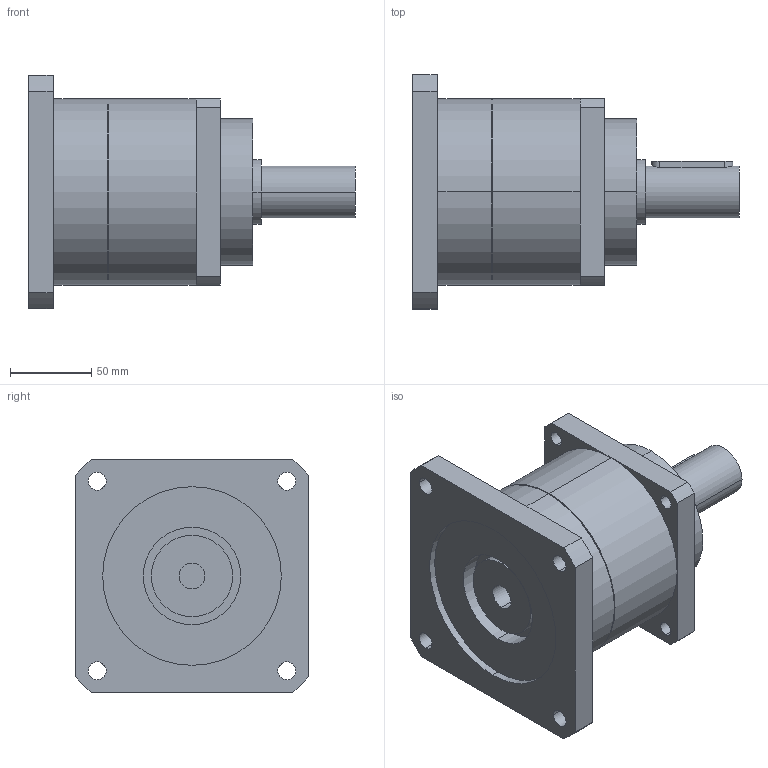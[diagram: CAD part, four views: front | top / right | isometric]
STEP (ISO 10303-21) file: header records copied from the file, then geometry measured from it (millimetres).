
FILE_DESCRIPTION(('CoCreate Modeling STEP Export'),'2;1');
FILE_NAME('GPT120_ig-3-4-5-7-10_32_B5A_15.87_P22.stp','2015-02-04T16:08:00',(''),(''),'CoCreate Modeling STEP processor for AP214 (Solid Model)','CoCreate Modeling 16.00C 25-Feb-2009 (C) Parametric Technology GmbH','');
FILE_SCHEMA(('AUTOMOTIVE_DESIGN { 1 0 10303 214 1 1 1 1 }'));
Length unit declared in the file: millimetre
Products named in the file (2): GPT120_ig-3-4-5-7-10_32_B5A_15.87_P22
Assembly tree (1 placements, depth 2):
  GPT120_ig-3-4-5-7-10_32_B5A_15.87_P22
    GPT120_ig-3-4-5-7-10_32_B5A_15.87_P22
Bounding box: 201 x 144 x 144 mm (x, y, z)
Volume: 1524660.4 mm3; surface area: 115944 mm2
Topology: 1 solids, 1 shells, 77 faces, 204 edges, 139 vertices
Faces by surface type: cylinder 46, plane 27, cone 4
Entity records: 2568 total; most frequent: CARTESIAN_POINT 759, ORIENTED_EDGE 408, DIRECTION 320, EDGE_CURVE 204, VERTEX_POINT 139, AXIS2_PLACEMENT_3D 118, EDGE_LOOP 103, VECTOR 84
